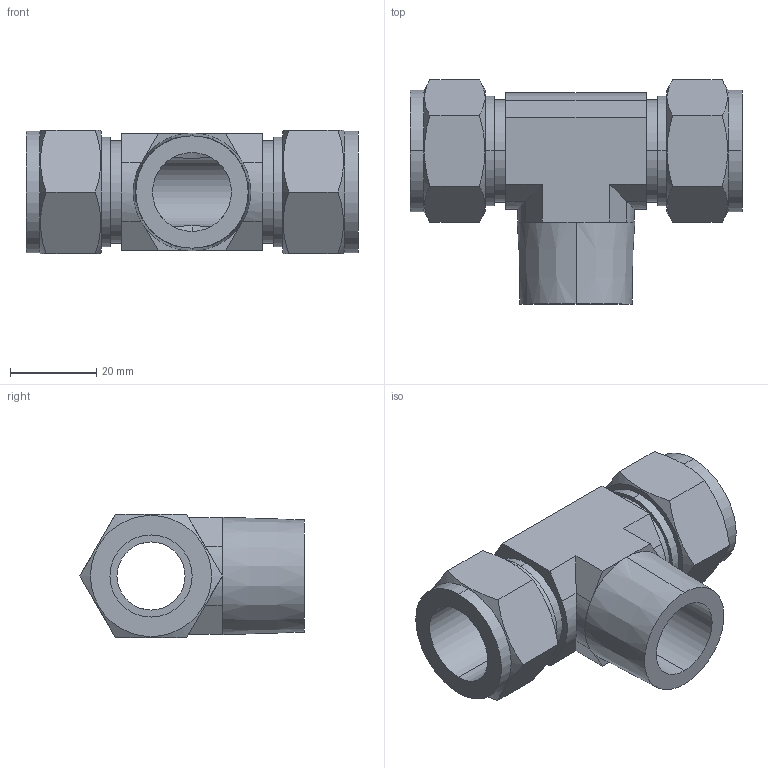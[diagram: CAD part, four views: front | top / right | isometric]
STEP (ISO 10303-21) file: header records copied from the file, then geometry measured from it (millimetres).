
FILE_DESCRIPTION (( 'STEP AP203' ), '1' );
FILE_NAME ('DTN 12-12 SS.STEP', '2009-09-08T10:09:51', ( 'Your User Name' ), ( 'Your Company Name' ), 'SwSTEP 2.0', 'SolidWorks 2008', '' );
FILE_SCHEMA (( 'CONFIG_CONTROL_DESIGN' ));
Length unit declared in the file: millimetre
Products named in the file (1): DTN 12-12 SS
Bounding box: 77 x 52 x 28.58 mm (x, y, z)
Volume: 34801.3 mm3; surface area: 16417.1 mm2
Topology: 1 solids, 1 shells, 82 faces, 198 edges, 125 vertices
Faces by surface type: plane 43, cylinder 26, cone 13
Entity records: 2784 total; most frequent: CARTESIAN_POINT 807, ORIENTED_EDGE 396, DIRECTION 389, EDGE_CURVE 198, AXIS2_PLACEMENT_3D 147, VERTEX_POINT 125, VECTOR 95, LINE 95
